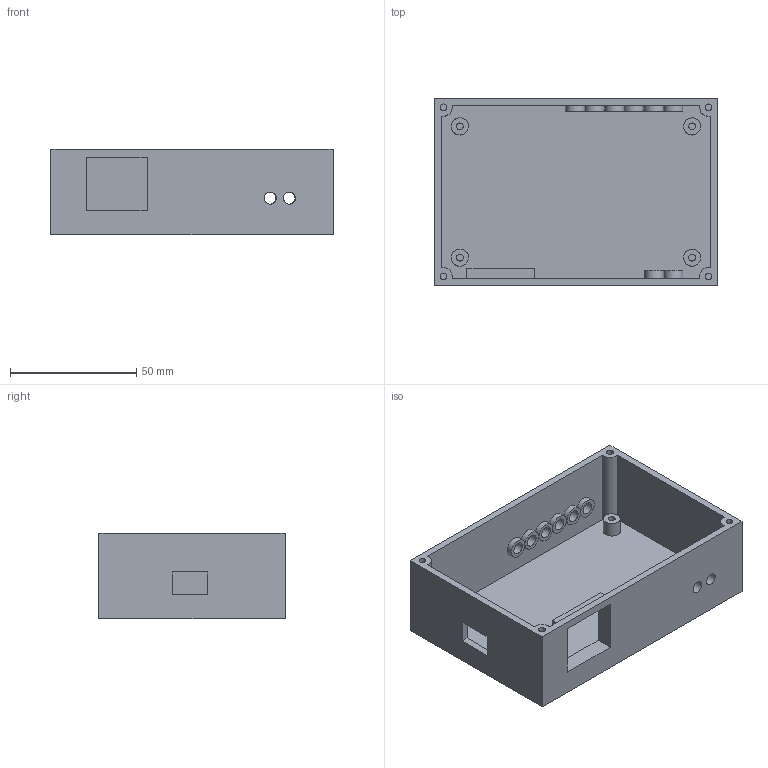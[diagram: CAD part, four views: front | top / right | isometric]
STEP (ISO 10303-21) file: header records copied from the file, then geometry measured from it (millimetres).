
FILE_DESCRIPTION(('FreeCAD Model'),'2;1');
FILE_NAME('Open CASCADE Shape Model','2026-11-16T15:21:19',('FreeCAD'),( 'FreeCAD'),'Open CASCADE STEP processor 7.9','FreeCAD','Unknown');
FILE_SCHEMA(('AUTOMOTIVE_DESIGN { 1 0 10303 214 1 1 1 1 }'));
Length unit declared in the file: millimetre
Products named in the file (1): Open CASCADE STEP translator 7.9 1
Bounding box: 112 x 74 x 34 mm (x, y, z)
Volume: 56049.2 mm3; surface area: 41653.7 mm2
Topology: 1 solids, 1 shells, 76 faces, 176 edges, 124 vertices
Faces by surface type: bspline 76
Entity records: 2486 total; most frequent: CARTESIAN_POINT 1361, ORIENTED_EDGE 352, EDGE_CURVE 176, VERTEX_POINT 124, FACE_BOUND 118, EDGE_LOOP 118, B_SPLINE_CURVE_WITH_KNOTS 100, ADVANCED_FACE 76
